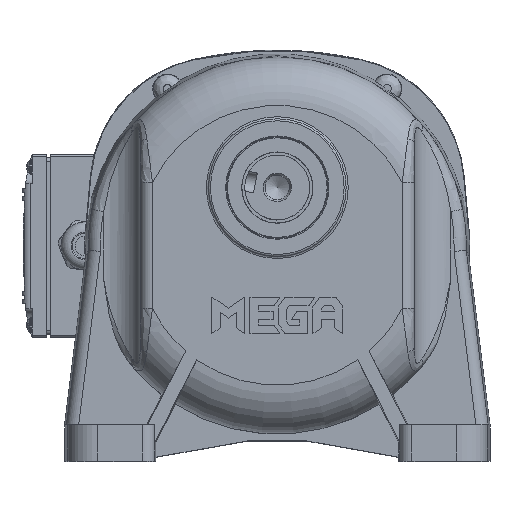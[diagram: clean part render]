
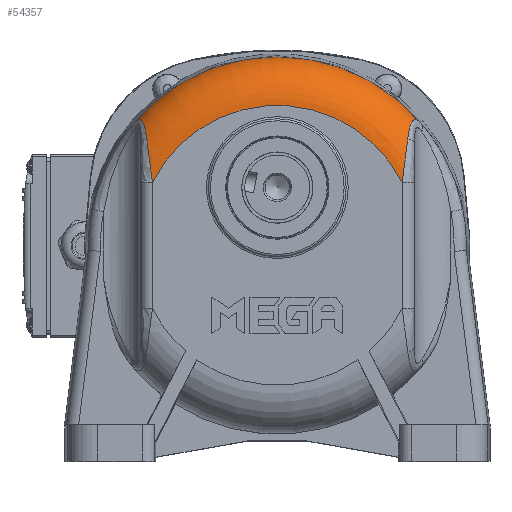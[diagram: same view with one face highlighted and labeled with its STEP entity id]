
A CAD part, top view. The second image highlights one B-rep face of the part: STEP entity #54357.
In plain terms, the highlighted toroidal (fillet/blend) face has major radius 69.054 mm and minor radius 24 mm.
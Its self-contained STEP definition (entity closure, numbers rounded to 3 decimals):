
#625=TOROIDAL_SURFACE('',#58478,69.054,24.);
#9543=FACE_OUTER_BOUND('',#12875,.T.);
#12875=EDGE_LOOP('',(#38200,#38201,#38202,#38203,#38204,#38205));
#16149=CIRCLE('',#58479,69.054);
#16150=CIRCLE('',#58480,93.046);
#18669=B_SPLINE_CURVE_WITH_KNOTS('',3,(#84582,#84583,#84584,#84585,#84586),
 .UNSPECIFIED.,.F.,.F.,(4,1,4),(-1.959,-0.839,0.),
 .UNSPECIFIED.);
#18670=B_SPLINE_CURVE_WITH_KNOTS('',3,(#84590,#84591,#84592,#84593,#84594,
#84595),.UNSPECIFIED.,.F.,.F.,(4,1,1,4),(-1.959,-1.399,
-0.839,0.),.UNSPECIFIED.);
#18671=B_SPLINE_CURVE_WITH_KNOTS('',3,(#84597,#84598,#84599,#84600,#84601,
#84602,#84603,#84604,#84605,#84606),.UNSPECIFIED.,.F.,.F.,(4,1,1,1,1,1,
1,4),(-1.905,-1.633,-1.361,-1.089,
-0.816,-0.544,-0.272,0.),
 .UNSPECIFIED.);
#18672=B_SPLINE_CURVE_WITH_KNOTS('',3,(#84609,#84610,#84611,#84612,#84613,
#84614,#84615,#84616,#84617),.UNSPECIFIED.,.F.,.F.,(4,1,1,1,1,1,4),(-1.905,
-1.633,-1.361,-1.089,-0.817,
-0.544,0.),.UNSPECIFIED.);
#22008=VERTEX_POINT('',#84580);
#22009=VERTEX_POINT('',#84581);
#22010=VERTEX_POINT('',#84587);
#22011=VERTEX_POINT('',#84589);
#22012=VERTEX_POINT('',#84596);
#22013=VERTEX_POINT('',#84607);
#27823=EDGE_CURVE('',#22008,#22009,#18669,.T.);
#27824=EDGE_CURVE('',#22008,#22010,#16149,.T.);
#27825=EDGE_CURVE('',#22011,#22010,#18670,.T.);
#27826=EDGE_CURVE('',#22012,#22011,#18671,.T.);
#27827=EDGE_CURVE('',#22013,#22012,#16150,.F.);
#27828=EDGE_CURVE('',#22009,#22013,#18672,.T.);
#38200=ORIENTED_EDGE('',*,*,#27823,.F.);
#38201=ORIENTED_EDGE('',*,*,#27824,.T.);
#38202=ORIENTED_EDGE('',*,*,#27825,.F.);
#38203=ORIENTED_EDGE('',*,*,#27826,.F.);
#38204=ORIENTED_EDGE('',*,*,#27827,.F.);
#38205=ORIENTED_EDGE('',*,*,#27828,.F.);
#54357=ADVANCED_FACE('',(#9543),#625,.T.);
#58478=AXIS2_PLACEMENT_3D('',#84579,#67329,#67330);
#58479=AXIS2_PLACEMENT_3D('',#84588,#67331,#67332);
#58480=AXIS2_PLACEMENT_3D('',#84608,#67333,#67334);
#67329=DIRECTION('center_axis',(0.,0.,-1.));
#67330=DIRECTION('ref_axis',(-1.,0.,0.));
#67331=DIRECTION('center_axis',(0.,0.,-1.));
#67332=DIRECTION('ref_axis',(-1.,0.,0.));
#67333=DIRECTION('center_axis',(0.,0.,1.));
#67334=DIRECTION('ref_axis',(-1.,0.,0.));
#84579=CARTESIAN_POINT('Origin',(-11.885,1.926,24.));
#84580=CARTESIAN_POINT('',(-73.518,33.069,48.));
#84581=CARTESIAN_POINT('',(-76.304,54.464,43.442));
#84582=CARTESIAN_POINT('Ctrl Pts',(-73.518,33.069,48.));
#84583=CARTESIAN_POINT('Ctrl Pts',(-74.018,37.053,48.));
#84584=CARTESIAN_POINT('Ctrl Pts',(-74.966,44.242,47.466));
#84585=CARTESIAN_POINT('Ctrl Pts',(-75.919,51.516,45.006));
#84586=CARTESIAN_POINT('Ctrl Pts',(-76.304,54.464,43.442));
#84587=CARTESIAN_POINT('',(49.747,33.069,48.));
#84588=CARTESIAN_POINT('Origin',(-11.885,1.926,48.));
#84589=CARTESIAN_POINT('',(52.533,54.464,43.442));
#84590=CARTESIAN_POINT('Ctrl Pts',(52.533,54.464,43.442));
#84591=CARTESIAN_POINT('Ctrl Pts',(52.277,52.498,44.485));
#84592=CARTESIAN_POINT('Ctrl Pts',(51.741,48.402,46.121));
#84593=CARTESIAN_POINT('Ctrl Pts',(50.788,41.159,47.708));
#84594=CARTESIAN_POINT('Ctrl Pts',(50.123,36.057,48.));
#84595=CARTESIAN_POINT('Ctrl Pts',(49.747,33.069,48.));
#84596=CARTESIAN_POINT('',(59.289,61.858,24.628));
#84597=CARTESIAN_POINT('Ctrl Pts',(59.289,61.858,24.628));
#84598=CARTESIAN_POINT('Ctrl Pts',(58.802,62.404,25.422));
#84599=CARTESIAN_POINT('Ctrl Pts',(57.814,63.36,27.163));
#84600=CARTESIAN_POINT('Ctrl Pts',(56.354,64.081,30.291));
#84601=CARTESIAN_POINT('Ctrl Pts',(55.069,63.703,33.73));
#84602=CARTESIAN_POINT('Ctrl Pts',(54.105,62.182,36.954));
#84603=CARTESIAN_POINT('Ctrl Pts',(53.426,59.938,39.637));
#84604=CARTESIAN_POINT('Ctrl Pts',(52.927,57.322,41.784));
#84605=CARTESIAN_POINT('Ctrl Pts',(52.658,55.42,42.934));
#84606=CARTESIAN_POINT('Ctrl Pts',(52.533,54.464,43.442));
#84607=CARTESIAN_POINT('',(-83.059,61.858,24.628));
#84608=CARTESIAN_POINT('Origin',(-11.885,1.926,24.628));
#84609=CARTESIAN_POINT('Ctrl Pts',(-76.304,54.464,43.442));
#84610=CARTESIAN_POINT('Ctrl Pts',(-76.428,55.42,42.934));
#84611=CARTESIAN_POINT('Ctrl Pts',(-76.698,57.319,41.786));
#84612=CARTESIAN_POINT('Ctrl Pts',(-77.196,59.935,39.642));
#84613=CARTESIAN_POINT('Ctrl Pts',(-77.874,62.175,36.961));
#84614=CARTESIAN_POINT('Ctrl Pts',(-78.833,63.698,33.752));
#84615=CARTESIAN_POINT('Ctrl Pts',(-80.555,64.206,29.137));
#84616=CARTESIAN_POINT('Ctrl Pts',(-82.085,62.95,26.216));
#84617=CARTESIAN_POINT('Ctrl Pts',(-83.059,61.858,24.628));
